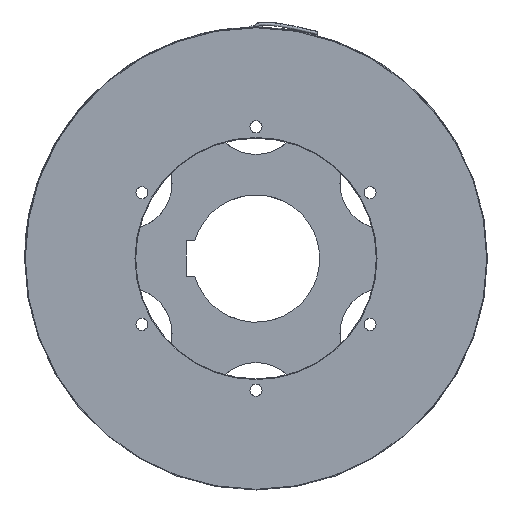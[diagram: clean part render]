
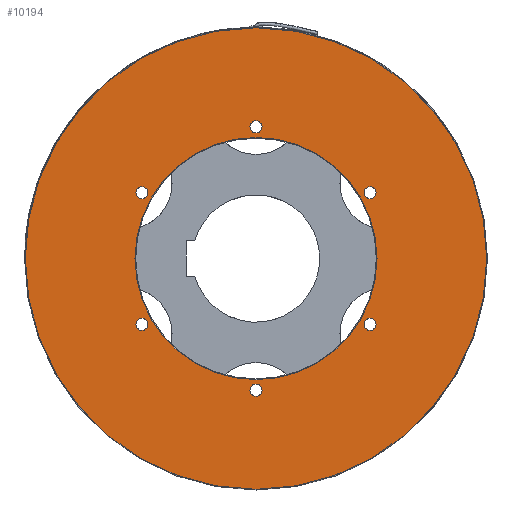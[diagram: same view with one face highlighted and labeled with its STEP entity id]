
A CAD part, left-side view. The second image highlights one B-rep face of the part: STEP entity #10194.
In plain terms, the highlighted planar face has unit normal (-1, 0, 0).
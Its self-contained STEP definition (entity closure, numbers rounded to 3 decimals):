
#238=FACE_BOUND('',#1361,.T.);
#239=FACE_BOUND('',#1362,.T.);
#240=FACE_BOUND('',#1363,.T.);
#241=FACE_BOUND('',#1364,.T.);
#242=FACE_BOUND('',#1365,.T.);
#243=FACE_BOUND('',#1366,.T.);
#244=FACE_BOUND('',#1367,.T.);
#385=PLANE('',#11440);
#758=FACE_OUTER_BOUND('',#1360,.T.);
#1360=EDGE_LOOP('',(#8154,#8155));
#1361=EDGE_LOOP('',(#8156,#8157));
#1362=EDGE_LOOP('',(#8158,#8159));
#1363=EDGE_LOOP('',(#8160,#8161));
#1364=EDGE_LOOP('',(#8162,#8163));
#1365=EDGE_LOOP('',(#8164,#8165));
#1366=EDGE_LOOP('',(#8166,#8167));
#1367=EDGE_LOOP('',(#8168));
#3045=CIRCLE('',#11313,163.);
#3046=CIRCLE('',#11314,163.);
#3141=CIRCLE('',#11416,85.5);
#3142=CIRCLE('',#11419,4.25);
#3143=CIRCLE('',#11420,4.25);
#3144=CIRCLE('',#11422,4.25);
#3145=CIRCLE('',#11423,4.25);
#3146=CIRCLE('',#11425,4.25);
#3147=CIRCLE('',#11426,4.25);
#3148=CIRCLE('',#11428,4.25);
#3149=CIRCLE('',#11429,4.25);
#3150=CIRCLE('',#11431,4.25);
#3151=CIRCLE('',#11432,4.25);
#3152=CIRCLE('',#11434,4.25);
#3153=CIRCLE('',#11435,4.25);
#4165=VERTEX_POINT('',#17820);
#4166=VERTEX_POINT('',#17821);
#4261=VERTEX_POINT('',#18035);
#4262=VERTEX_POINT('',#18040);
#4263=VERTEX_POINT('',#18041);
#4264=VERTEX_POINT('',#18046);
#4265=VERTEX_POINT('',#18047);
#4266=VERTEX_POINT('',#18052);
#4267=VERTEX_POINT('',#18053);
#4268=VERTEX_POINT('',#18058);
#4269=VERTEX_POINT('',#18059);
#4270=VERTEX_POINT('',#18064);
#4271=VERTEX_POINT('',#18065);
#4272=VERTEX_POINT('',#18070);
#4273=VERTEX_POINT('',#18071);
#5498=EDGE_CURVE('',#4165,#4166,#3045,.T.);
#5499=EDGE_CURVE('',#4166,#4165,#3046,.T.);
#5602=EDGE_CURVE('',#4261,#4261,#3141,.T.);
#5603=EDGE_CURVE('',#4262,#4263,#3142,.T.);
#5604=EDGE_CURVE('',#4263,#4262,#3143,.T.);
#5606=EDGE_CURVE('',#4264,#4265,#3144,.T.);
#5607=EDGE_CURVE('',#4265,#4264,#3145,.T.);
#5609=EDGE_CURVE('',#4266,#4267,#3146,.T.);
#5610=EDGE_CURVE('',#4267,#4266,#3147,.T.);
#5612=EDGE_CURVE('',#4268,#4269,#3148,.T.);
#5613=EDGE_CURVE('',#4269,#4268,#3149,.T.);
#5615=EDGE_CURVE('',#4270,#4271,#3150,.T.);
#5616=EDGE_CURVE('',#4271,#4270,#3151,.T.);
#5618=EDGE_CURVE('',#4272,#4273,#3152,.T.);
#5619=EDGE_CURVE('',#4273,#4272,#3153,.T.);
#8154=ORIENTED_EDGE('',*,*,#5498,.T.);
#8155=ORIENTED_EDGE('',*,*,#5499,.T.);
#8156=ORIENTED_EDGE('',*,*,#5618,.T.);
#8157=ORIENTED_EDGE('',*,*,#5619,.T.);
#8158=ORIENTED_EDGE('',*,*,#5615,.T.);
#8159=ORIENTED_EDGE('',*,*,#5616,.T.);
#8160=ORIENTED_EDGE('',*,*,#5612,.T.);
#8161=ORIENTED_EDGE('',*,*,#5613,.T.);
#8162=ORIENTED_EDGE('',*,*,#5609,.T.);
#8163=ORIENTED_EDGE('',*,*,#5610,.T.);
#8164=ORIENTED_EDGE('',*,*,#5606,.T.);
#8165=ORIENTED_EDGE('',*,*,#5607,.T.);
#8166=ORIENTED_EDGE('',*,*,#5603,.T.);
#8167=ORIENTED_EDGE('',*,*,#5604,.T.);
#8168=ORIENTED_EDGE('',*,*,#5602,.F.);
#10194=ADVANCED_FACE('',(#758,#238,#239,#240,#241,#242,#243,#244),#385,
 .T.);
#11313=AXIS2_PLACEMENT_3D('',#17822,#14078,#14079);
#11314=AXIS2_PLACEMENT_3D('',#17823,#14080,#14081);
#11416=AXIS2_PLACEMENT_3D('',#18037,#14291,#14292);
#11419=AXIS2_PLACEMENT_3D('',#18042,#14297,#14298);
#11420=AXIS2_PLACEMENT_3D('',#18043,#14299,#14300);
#11422=AXIS2_PLACEMENT_3D('',#18048,#14304,#14305);
#11423=AXIS2_PLACEMENT_3D('',#18049,#14306,#14307);
#11425=AXIS2_PLACEMENT_3D('',#18054,#14311,#14312);
#11426=AXIS2_PLACEMENT_3D('',#18055,#14313,#14314);
#11428=AXIS2_PLACEMENT_3D('',#18060,#14318,#14319);
#11429=AXIS2_PLACEMENT_3D('',#18061,#14320,#14321);
#11431=AXIS2_PLACEMENT_3D('',#18066,#14325,#14326);
#11432=AXIS2_PLACEMENT_3D('',#18067,#14327,#14328);
#11434=AXIS2_PLACEMENT_3D('',#18072,#14332,#14333);
#11435=AXIS2_PLACEMENT_3D('',#18073,#14334,#14335);
#11440=AXIS2_PLACEMENT_3D('',#18081,#14345,#14346);
#14078=DIRECTION('center_axis',(-1.,0.,0.));
#14079=DIRECTION('ref_axis',(0.,1.,0.));
#14080=DIRECTION('center_axis',(-1.,0.,0.));
#14081=DIRECTION('ref_axis',(0.,1.,0.));
#14291=DIRECTION('center_axis',(-1.,0.,0.));
#14292=DIRECTION('ref_axis',(0.,-1.,0.));
#14297=DIRECTION('center_axis',(1.,0.,0.));
#14298=DIRECTION('ref_axis',(0.,0.,
1.));
#14299=DIRECTION('center_axis',(1.,0.,0.));
#14300=DIRECTION('ref_axis',(0.,0.,
1.));
#14304=DIRECTION('center_axis',(1.,0.,0.));
#14305=DIRECTION('ref_axis',(0.,0.,
1.));
#14306=DIRECTION('center_axis',(1.,0.,0.));
#14307=DIRECTION('ref_axis',(0.,0.,
1.));
#14311=DIRECTION('center_axis',(1.,0.,0.));
#14312=DIRECTION('ref_axis',(0.,0.,
1.));
#14313=DIRECTION('center_axis',(1.,0.,0.));
#14314=DIRECTION('ref_axis',(0.,0.,
1.));
#14318=DIRECTION('center_axis',(1.,0.,0.));
#14319=DIRECTION('ref_axis',(0.,0.,
1.));
#14320=DIRECTION('center_axis',(1.,0.,0.));
#14321=DIRECTION('ref_axis',(0.,0.,
1.));
#14325=DIRECTION('center_axis',(1.,0.,0.));
#14326=DIRECTION('ref_axis',(0.,0.,
1.));
#14327=DIRECTION('center_axis',(1.,0.,0.));
#14328=DIRECTION('ref_axis',(0.,0.,
1.));
#14332=DIRECTION('center_axis',(1.,0.,0.));
#14333=DIRECTION('ref_axis',(0.,0.,
1.));
#14334=DIRECTION('center_axis',(1.,0.,0.));
#14335=DIRECTION('ref_axis',(0.,0.,
1.));
#14345=DIRECTION('center_axis',(-1.,0.,0.));
#14346=DIRECTION('ref_axis',(0.,0.,
1.));
#17820=CARTESIAN_POINT('',(-33.8,163.,0.));
#17821=CARTESIAN_POINT('',(-33.8,-163.,0.));
#17822=CARTESIAN_POINT('Origin',(-33.8,0.,0.));
#17823=CARTESIAN_POINT('Origin',(-33.8,0.,0.));
#18035=CARTESIAN_POINT('',(-33.8,85.5,0.));
#18037=CARTESIAN_POINT('Origin',(-33.8,0.,0.));
#18040=CARTESIAN_POINT('',(-33.8,-80.54,50.75));
#18041=CARTESIAN_POINT('',(-33.8,-80.54,42.25));
#18042=CARTESIAN_POINT('Origin',(-33.8,-80.54,46.5));
#18043=CARTESIAN_POINT('Origin',(-33.8,-80.54,46.5));
#18046=CARTESIAN_POINT('',(-33.8,0.,-88.75));
#18047=CARTESIAN_POINT('',(-33.8,0.,-97.25));
#18048=CARTESIAN_POINT('Origin',(-33.8,0.,-93.));
#18049=CARTESIAN_POINT('Origin',(-33.8,0.,-93.));
#18052=CARTESIAN_POINT('',(-33.8,80.54,50.75));
#18053=CARTESIAN_POINT('',(-33.8,80.54,42.25));
#18054=CARTESIAN_POINT('Origin',(-33.8,80.54,46.5));
#18055=CARTESIAN_POINT('Origin',(-33.8,80.54,46.5));
#18058=CARTESIAN_POINT('',(-33.8,0.,97.25));
#18059=CARTESIAN_POINT('',(-33.8,0.,88.75));
#18060=CARTESIAN_POINT('Origin',(-33.8,0.,93.));
#18061=CARTESIAN_POINT('Origin',(-33.8,0.,93.));
#18064=CARTESIAN_POINT('',(-33.8,80.54,-42.25));
#18065=CARTESIAN_POINT('',(-33.8,80.54,-50.75));
#18066=CARTESIAN_POINT('Origin',(-33.8,80.54,-46.5));
#18067=CARTESIAN_POINT('Origin',(-33.8,80.54,-46.5));
#18070=CARTESIAN_POINT('',(-33.8,-80.54,-42.25));
#18071=CARTESIAN_POINT('',(-33.8,-80.54,-50.75));
#18072=CARTESIAN_POINT('Origin',(-33.8,-80.54,-46.5));
#18073=CARTESIAN_POINT('Origin',(-33.8,-80.54,-46.5));
#18081=CARTESIAN_POINT('Origin',(-33.8,124.,0.));
